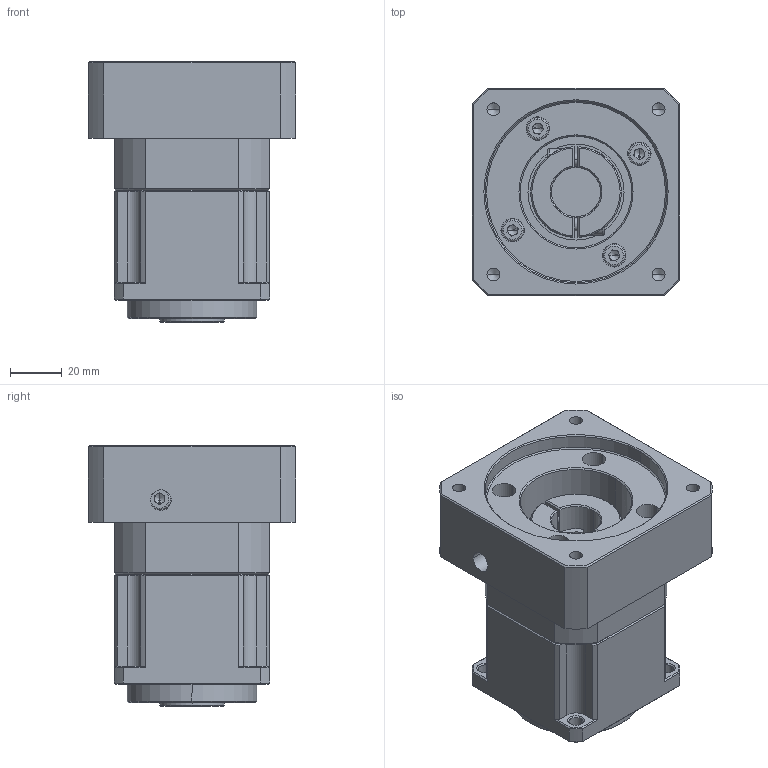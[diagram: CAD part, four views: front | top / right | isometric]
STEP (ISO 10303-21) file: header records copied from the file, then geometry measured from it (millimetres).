
FILE_DESCRIPTION (( 'STEP AP214' ), '1' );
FILE_NAME ('ZPB060-K16-L1-P1-19-70-90-M6.step', '2024-04-24T07:35:14', ( '' ), ( '' ), 'SwSTEP 2.0', 'SolidWorks 2016', '' );
FILE_SCHEMA (( 'AUTOMOTIVE_DESIGN' ));
Length unit declared in the file: millimetre
Products named in the file (1): ZPB060-K16-L1-P1-19-70-90-M6
Bounding box: 80 x 80 x 100.5 mm (x, y, z)
Volume: 321984.1 mm3; surface area: 69983.4 mm2
Topology: 9 solids, 18 shells, 1473 faces, 3940 edges, 2556 vertices
Faces by surface type: plane 850, bspline 315, cylinder 176, cone 120, torus 12
Entity records: 74957 total; most frequent: CARTESIAN_POINT 23873, ORIENTED_EDGE 7808, DIRECTION 6062, EDGE_CURVE 3904, LINE 2652, VECTOR 2652, VERTEX_POINT 2556, AXIS2_PLACEMENT_3D 1705
